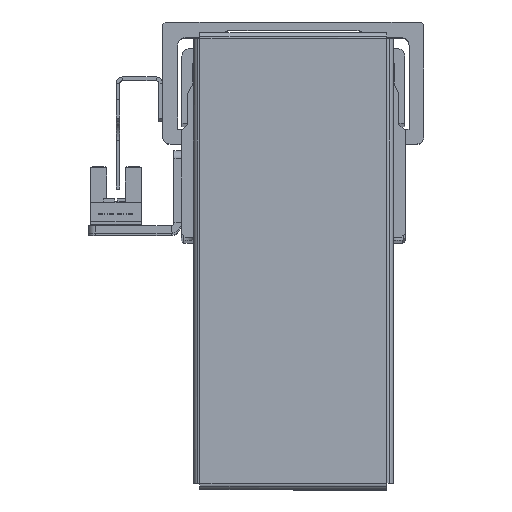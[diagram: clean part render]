
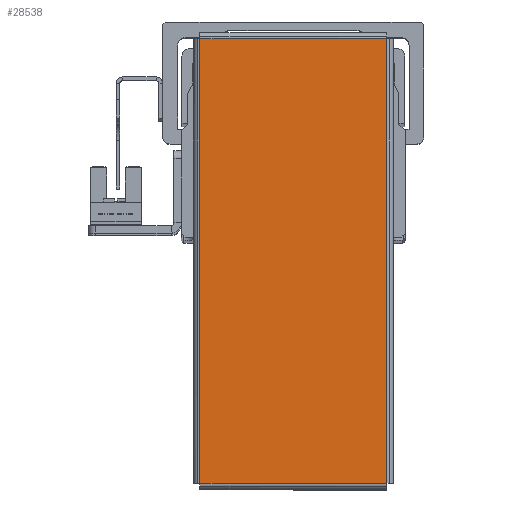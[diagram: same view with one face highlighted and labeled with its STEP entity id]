
A CAD part, top view. The second image highlights one B-rep face of the part: STEP entity #28538.
In plain terms, the highlighted planar face has unit normal (0, 0, 1) as drawn and (0, 0, -1) by its records, which use the part's own axes.
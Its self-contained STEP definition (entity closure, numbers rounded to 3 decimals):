
#5227 = EDGE_CURVE ( 'NONE', #24656, #24651, #22408, .T. ) ;
#5240 = EDGE_CURVE ( 'NONE', #24651, #24632, #22424, .T. ) ;
#5247 = EDGE_CURVE ( 'NONE', #24632, #24637, #22413, .T. ) ;
#5337 = EDGE_CURVE ( 'NONE', #24637, #24656, #22496, .T. ) ;
#8384 = AXIS2_PLACEMENT_3D ( 'NONE', #25280, #25305, #25281 ) ;
#13883 = CARTESIAN_POINT ( 'NONE',  ( -59.513, -25.013, -1. ) ) ;
#13894 = CARTESIAN_POINT ( 'NONE',  ( -59.513, 25.013, -1. ) ) ;
#13896 = CARTESIAN_POINT ( 'NONE',  ( 59.513, 25.013, -1. ) ) ;
#13932 = CARTESIAN_POINT ( 'NONE',  ( 59.513, -25.013, -1. ) ) ;
#16768 = FACE_OUTER_BOUND ( 'NONE', #19996, .T. ) ;
#19996 = EDGE_LOOP ( 'NONE', ( #26091, #26211, #26197, #26150 ) ) ;
#22399 = VECTOR ( 'NONE', #30403, 1000. ) ;
#22408 = LINE ( 'NONE', #30350, #22449 ) ;
#22413 = LINE ( 'NONE', #30402, #22416 ) ;
#22416 = VECTOR ( 'NONE', #30416, 1000. ) ;
#22424 = LINE ( 'NONE', #30382, #22399 ) ;
#22449 = VECTOR ( 'NONE', #30358, 1000. ) ;
#22485 = VECTOR ( 'NONE', #30522, 1000. ) ;
#22496 = LINE ( 'NONE', #30498, #22485 ) ;
#24632 = VERTEX_POINT ( 'NONE', #13894 ) ;
#24637 = VERTEX_POINT ( 'NONE', #13896 ) ;
#24651 = VERTEX_POINT ( 'NONE', #13883 ) ;
#24656 = VERTEX_POINT ( 'NONE', #13932 ) ;
#25280 = CARTESIAN_POINT ( 'NONE',  ( 0., 0., -1. ) ) ;
#25281 = DIRECTION ( 'NONE',  ( 1., 0., 0. ) ) ;
#25284 = PLANE ( 'NONE',  #8384 ) ;
#25305 = DIRECTION ( 'NONE',  ( 0., 0., 1. ) ) ;
#26091 = ORIENTED_EDGE ( 'NONE', *, *, #5337, .T. ) ;
#26150 = ORIENTED_EDGE ( 'NONE', *, *, #5247, .T. ) ;
#26197 = ORIENTED_EDGE ( 'NONE', *, *, #5240, .T. ) ;
#26211 = ORIENTED_EDGE ( 'NONE', *, *, #5227, .T. ) ;
#28538 = ADVANCED_FACE ( 'NONE', ( #16768 ), #25284, .F. ) ;
#30350 = CARTESIAN_POINT ( 'NONE',  ( 59.543, -25.013, -1. ) ) ;
#30358 = DIRECTION ( 'NONE',  ( -1., 0., 0. ) ) ;
#30382 = CARTESIAN_POINT ( 'NONE',  ( -59.513, -25.043, -1. ) ) ;
#30402 = CARTESIAN_POINT ( 'NONE',  ( -59.543, 25.013, -1. ) ) ;
#30403 = DIRECTION ( 'NONE',  ( 0., 1., 0. ) ) ;
#30416 = DIRECTION ( 'NONE',  ( 1., 0., 0. ) ) ;
#30498 = CARTESIAN_POINT ( 'NONE',  ( 59.513, 25.043, -1. ) ) ;
#30522 = DIRECTION ( 'NONE',  ( 0., -1., 0. ) ) ;
